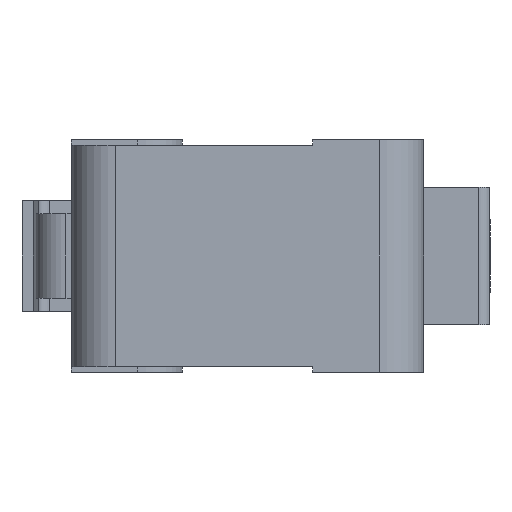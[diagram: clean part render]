
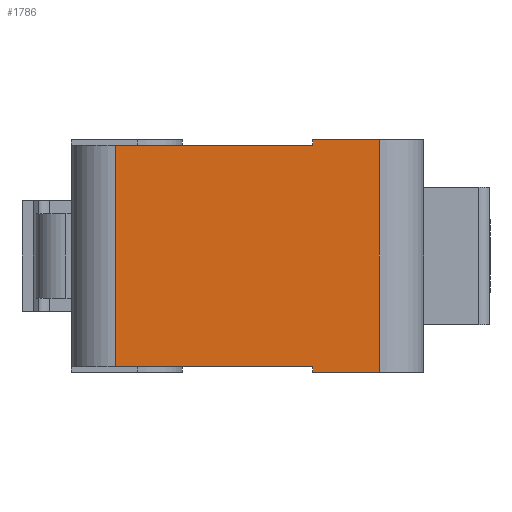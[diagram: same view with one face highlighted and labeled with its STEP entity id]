
A CAD part, left-side view. The second image highlights one B-rep face of the part: STEP entity #1786.
In plain terms, the highlighted planar face has unit normal (-1, 0, 0).
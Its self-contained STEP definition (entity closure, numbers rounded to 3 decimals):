
#235=FACE_OUTER_BOUND('',#347,.T.);
#347=EDGE_LOOP('',(#1553,#1554,#1555,#1556,#1557,#1558,#1559,#1560));
#504=LINE('',#2762,#699);
#507=LINE('',#2768,#702);
#518=LINE('',#2804,#713);
#521=LINE('',#2812,#716);
#534=LINE('',#2847,#729);
#536=LINE('',#2851,#731);
#537=LINE('',#2854,#732);
#538=LINE('',#2855,#733);
#699=VECTOR('',#2255,0.25);
#702=VECTOR('',#2262,3.);
#713=VECTOR('',#2295,3.);
#716=VECTOR('',#2304,0.25);
#729=VECTOR('',#2341,8.9);
#731=VECTOR('',#2347,10.5);
#732=VECTOR('',#2350,8.9);
#733=VECTOR('',#2351,10.);
#874=VERTEX_POINT('',#2759);
#875=VERTEX_POINT('',#2761);
#876=VERTEX_POINT('',#2766);
#889=VERTEX_POINT('',#2801);
#890=VERTEX_POINT('',#2803);
#892=VERTEX_POINT('',#2810);
#902=VERTEX_POINT('',#2846);
#903=VERTEX_POINT('',#2853);
#1084=EDGE_CURVE('',#875,#874,#504,.T.);
#1088=EDGE_CURVE('',#874,#876,#507,.T.);
#1105=EDGE_CURVE('',#889,#890,#518,.T.);
#1110=EDGE_CURVE('',#892,#889,#521,.T.);
#1128=EDGE_CURVE('',#875,#902,#534,.T.);
#1131=EDGE_CURVE('',#890,#876,#536,.T.);
#1132=EDGE_CURVE('',#903,#892,#537,.T.);
#1133=EDGE_CURVE('',#902,#903,#538,.T.);
#1553=ORIENTED_EDGE('',*,*,#1131,.F.);
#1554=ORIENTED_EDGE('',*,*,#1105,.F.);
#1555=ORIENTED_EDGE('',*,*,#1110,.F.);
#1556=ORIENTED_EDGE('',*,*,#1132,.F.);
#1557=ORIENTED_EDGE('',*,*,#1133,.F.);
#1558=ORIENTED_EDGE('',*,*,#1128,.F.);
#1559=ORIENTED_EDGE('',*,*,#1084,.T.);
#1560=ORIENTED_EDGE('',*,*,#1088,.T.);
#1698=PLANE('',#1922);
#1786=ADVANCED_FACE('',(#235),#1698,.T.);
#1922=AXIS2_PLACEMENT_3D('',#2852,#2348,#2349);
#2255=DIRECTION('',(0.,0.,-1.));
#2262=DIRECTION('',(0.,-1.,0.));
#2295=DIRECTION('',(0.,-1.,0.));
#2304=DIRECTION('',(0.,0.,1.));
#2341=DIRECTION('',(0.,1.,0.));
#2347=DIRECTION('',(0.,0.,-1.));
#2348=DIRECTION('center_axis',(-1.,0.,0.));
#2349=DIRECTION('ref_axis',(0.,-1.,0.));
#2350=DIRECTION('',(0.,-1.,0.));
#2351=DIRECTION('',(0.,0.,1.));
#2759=CARTESIAN_POINT('',(-13.9,-2.95,-5.25));
#2761=CARTESIAN_POINT('',(-13.9,-2.95,-5.));
#2762=CARTESIAN_POINT('',(-13.9,-2.95,-5.));
#2766=CARTESIAN_POINT('',(-13.9,-5.95,-5.25));
#2768=CARTESIAN_POINT('',(-13.9,-2.95,-5.25));
#2801=CARTESIAN_POINT('',(-13.9,-2.95,5.25));
#2803=CARTESIAN_POINT('',(-13.9,-5.95,5.25));
#2804=CARTESIAN_POINT('',(-13.9,-2.95,5.25));
#2810=CARTESIAN_POINT('',(-13.9,-2.95,5.));
#2812=CARTESIAN_POINT('',(-13.9,-2.95,5.));
#2846=CARTESIAN_POINT('',(-13.9,5.95,-5.));
#2847=CARTESIAN_POINT('',(-13.9,-7.95,-5.));
#2851=CARTESIAN_POINT('',(-13.9,-5.95,0.));
#2852=CARTESIAN_POINT('Origin',(-13.9,7.95,0.));
#2853=CARTESIAN_POINT('',(-13.9,5.95,5.));
#2854=CARTESIAN_POINT('',(-13.9,-7.95,5.));
#2855=CARTESIAN_POINT('',(-13.9,5.95,0.));
